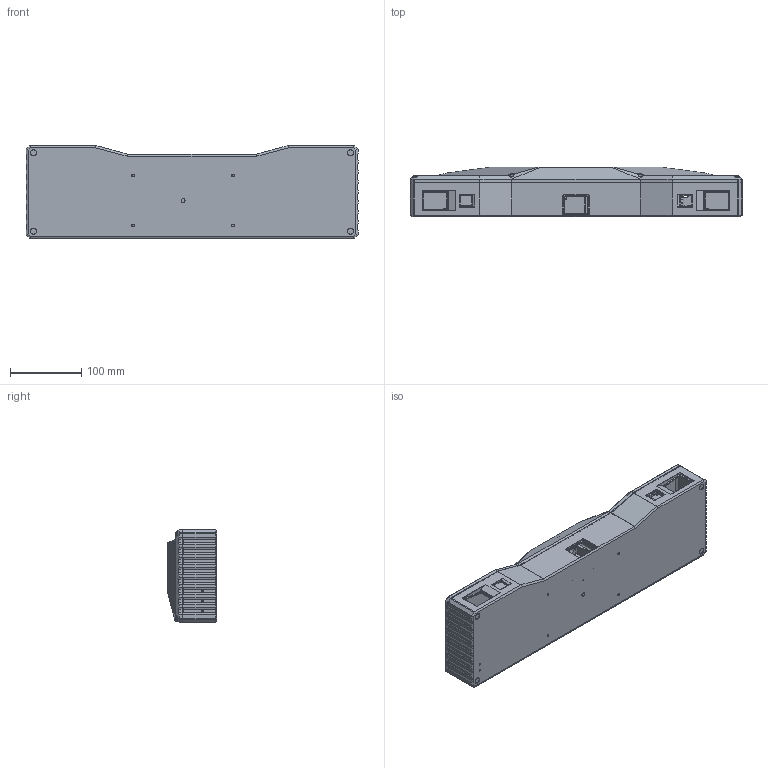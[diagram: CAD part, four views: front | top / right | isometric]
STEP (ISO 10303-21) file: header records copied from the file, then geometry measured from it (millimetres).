
FILE_DESCRIPTION((''),'2;1');
FILE_NAME('LUMOS-W-2002AJIJIA_ASM','2024-08-22T',('Ҧ'),(''),'PRO/ENGINEER BY PARAMETRIC TECHNOLOGY CORPORATION, 2010280','PRO/ENGINEER BY PARAMETRIC TECHNOLOGY CORPORATION, 2010280','');
FILE_SCHEMA(('CONFIG_CONTROL_DESIGN'));
Products named in the file (10): 20032-A; 2003-AS; 2002-YOU; 6063-LED; 2002-ZUO; 2003SANRIQI; 2003YAKOU; MV-6063; TF-2003; LUMOS-W-2002AJIJIA_ASM
Assembly tree (9 placements, depth 2):
  LUMOS-W-2002AJIJIA_ASM
    20032-A
    2003-AS
    2002-YOU
    6063-LED
    2002-ZUO
    2003SANRIQI
    2003YAKOU
    MV-6063
    TF-2003
Bounding box: 465 x 69 x 130 mm (x, y, z)
Volume: 637538.6 mm3; surface area: 405439 mm2
Topology: 9 solids, 9 shells, 2114 faces, 5259 edges, 3253 vertices
Faces by surface type: plane 1100, cylinder 601, cone 348, bspline 65
Entity records: 65375 total; most frequent: CARTESIAN_POINT 14483, DIRECTION 10538, ORIENTED_EDGE 10518, EDGE_CURVE 5259, AXIS2_PLACEMENT_3D 3556, VECTOR 3426, LINE 3426, VERTEX_POINT 3253
